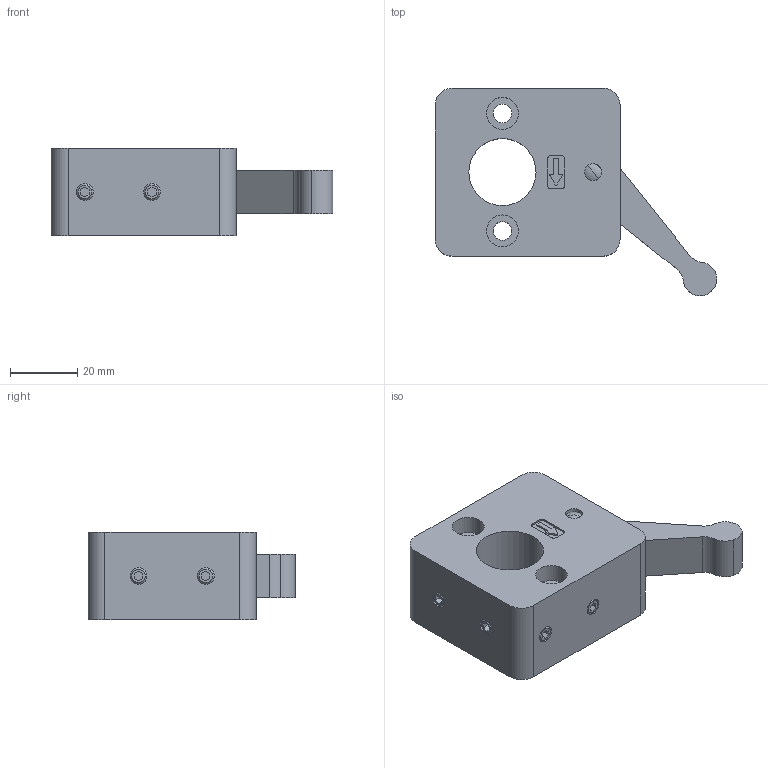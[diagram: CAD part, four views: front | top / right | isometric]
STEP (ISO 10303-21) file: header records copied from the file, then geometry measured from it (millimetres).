
FILE_DESCRIPTION (( 'STEP AP203' ), '1' );
FILE_NAME ('qsc20l.STEP', '2021-10-21T08:39:22', ( '' ), ( '' ), 'SwSTEP 2.0', 'SolidWorks 2020', '' );
FILE_SCHEMA (( 'CONFIG_CONTROL_DESIGN' ));
Length unit declared in the file: millimetre
Products named in the file (7): qsc20l_06; qsc20l_04; qsc20l_03; qsc20l_05; qsc20l_02; qsc20l_01; qsc20l
Assembly tree (6 placements, depth 2):
  qsc20l
    qsc20l_01
    qsc20l_02
    qsc20l_03
    qsc20l_04
    qsc20l_05
    qsc20l_06
Bounding box: 83.8 x 61.8 x 26 mm (x, y, z)
Volume: 60368 mm3; surface area: 18629.1 mm2
Topology: 6 solids, 6 shells, 194 faces, 472 edges, 309 vertices
Faces by surface type: plane 99, cylinder 74, cone 18, sphere 2, bspline 1
Entity records: 6499 total; most frequent: DIRECTION 1046, CARTESIAN_POINT 1017, ORIENTED_EDGE 944, EDGE_CURVE 472, AXIS2_PLACEMENT_3D 374, VERTEX_POINT 309, LINE 298, VECTOR 298
